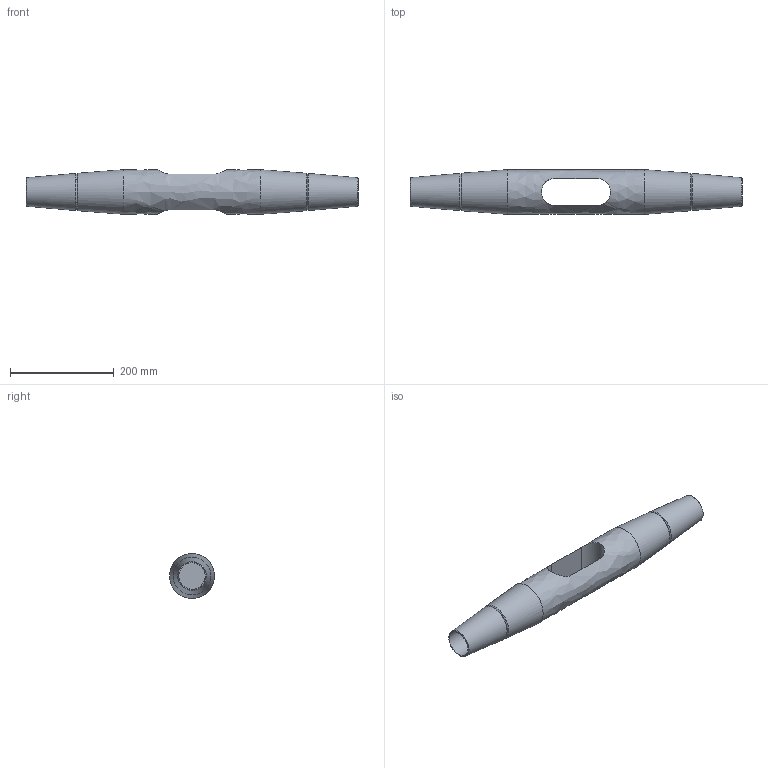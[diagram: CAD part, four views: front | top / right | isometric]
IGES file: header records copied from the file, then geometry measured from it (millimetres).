
Global section: file name: 520-048-KMF; native system: Autodesk Inventor 2016; preprocessor: unknown; author: Administrator; date: 20200702.132348; units: centimetre
Bounding box: 639 x 86 x 85.99 mm (x, y, z)
Volume: 2227212.5 mm3; surface area: 194113.9 mm2
Topology: 1 solids, 1 shells, 21 faces, 53 edges, 36 vertices
Faces by surface type: bspline 21
